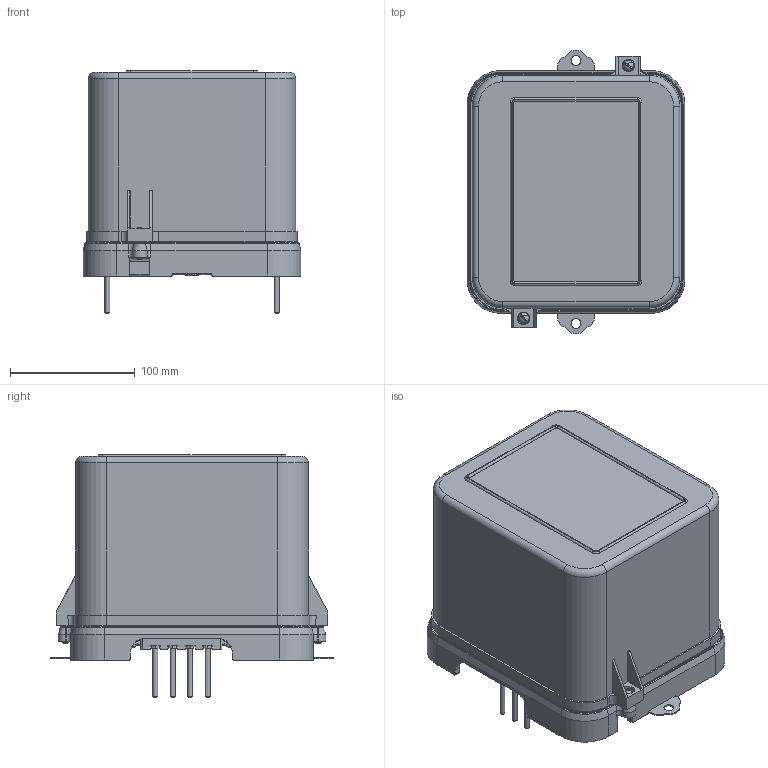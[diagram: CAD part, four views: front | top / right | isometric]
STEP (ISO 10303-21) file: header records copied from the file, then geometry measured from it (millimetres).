
FILE_DESCRIPTION(('STEP AP214'), '1');
FILE_NAME('ÐÍÔ-1Ì çàäíåå ïðèñîåäèíåíèå', '', ('UNSPECIFIED'), ('UNSPECIFIED'), 'ASCON STEP Converter 1.3', 'ASCON Math Kernel', '');
FILE_SCHEMA(('AUTOMOTIVE_DESIGN { 1 0 10303 214 3 1 1}'));
Length unit declared in the file: millimetre
Bounding box: 175 x 227.95 x 195 mm (x, y, z)
Volume: 572504.9 mm3; surface area: 413447.4 mm2
Topology: 1 solids, 1 shells, 2066 faces, 5007 edges, 3245 vertices
Faces by surface type: plane 1107, cylinder 712, bspline 84, torus 83, cone 68, sphere 12
Full cylindrical faces by diameter (mm): 3.242 x8, 4 x15, 4.1 x8, 4.3 x2, 4.5 x8, 5 x2, 5.5 x2, 6 x4, 7 x8, 8 x12, 8.5 x2, 10 x4
Entity records: 87255 total; most frequent: CARTESIAN_POINT 22328, DIRECTION 10058, ORIENTED_EDGE 9744, EDGE_CURVE 4872, AXIS2_PLACEMENT_3D 3609, VERTEX_POINT 3241, LINE 2840, VECTOR 2840
